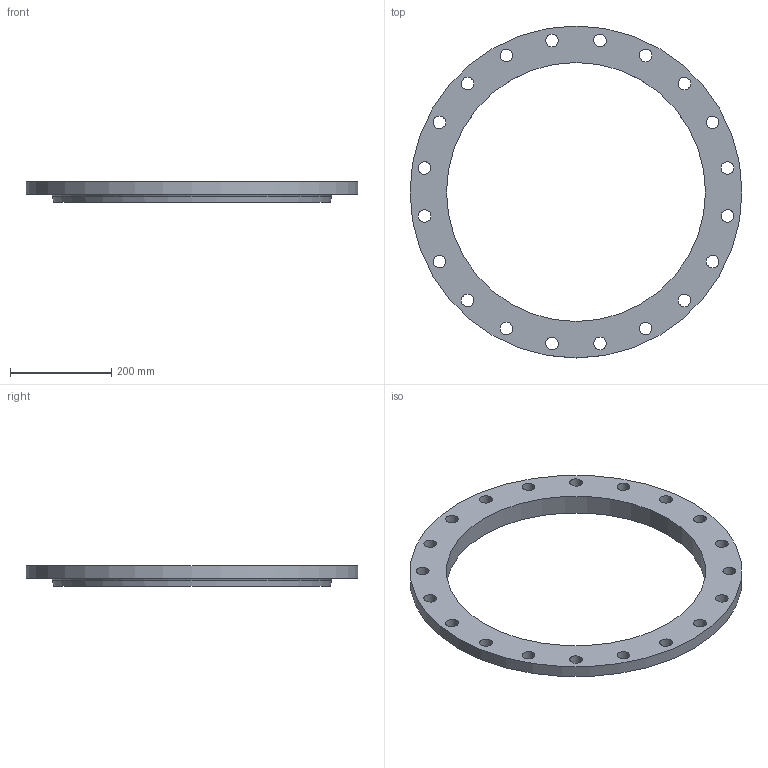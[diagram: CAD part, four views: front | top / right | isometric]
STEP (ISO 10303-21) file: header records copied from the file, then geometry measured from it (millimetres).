
FILE_DESCRIPTION(/* description */ (''),/* implementation_level */ '2;1');
FILE_NAME(/* name */ 'C:\Users\D\Documents\Inventor\HP\JIS\フランジ\JIS 5k soh ff\jis5k-soh-ff-500.stp',/* time_stamp */ '2024-08-29T14:25:20+09:00',/* author */ ('D'),/* organization */ (''),/* preprocessor_version */ 'ST-DEVELOPER v18',/* originating_system */ 'Autodesk Inventor 2020',/* authorisation */ '');
FILE_SCHEMA (('AUTOMOTIVE_DESIGN { 1 0 10303 214 3 1 1 }'));
Length unit declared in the file: millimetre
Products named in the file (1): jis5k-soh-ff-450
Bounding box: 655 x 655 x 40 mm (x, y, z)
Volume: 3441471.6 mm3; surface area: 415938.6 mm2
Topology: 1 solids, 1 shells, 27 faces, 98 edges, 74 vertices
Faces by surface type: cylinder 22, plane 3, cone 1, torus 1
Full cylindrical faces by diameter (mm): 25 x20, 511 x1, 655 x1
Entity records: 1260 total; most frequent: DIRECTION 229, CARTESIAN_POINT 200, ORIENTED_EDGE 196, AXIS2_PLACEMENT_3D 103, EDGE_CURVE 98, CIRCLE 75, VERTEX_POINT 74, EDGE_LOOP 70
